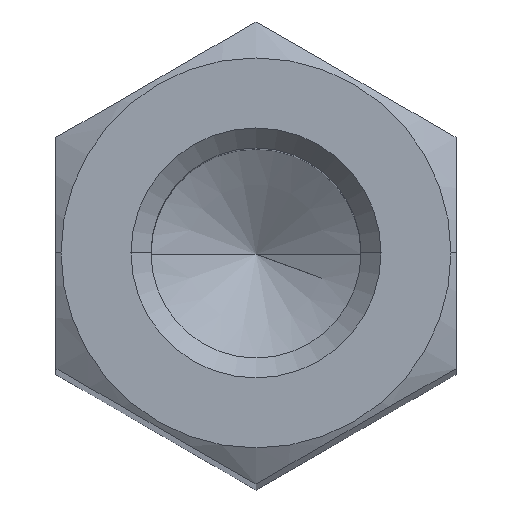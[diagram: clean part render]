
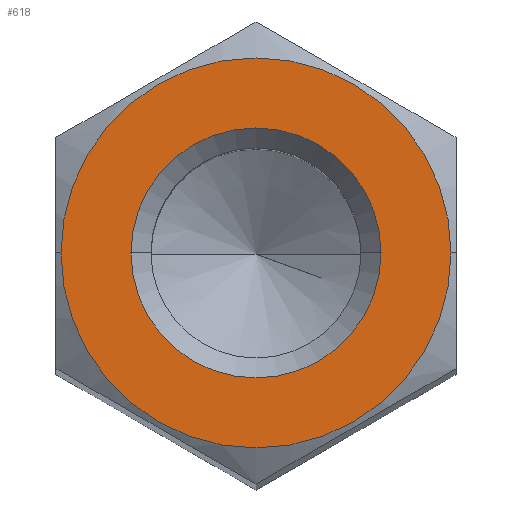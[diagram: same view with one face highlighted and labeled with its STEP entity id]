
A CAD part, top view. The second image highlights one B-rep face of the part: STEP entity #618.
In plain terms, the highlighted planar face has unit normal (0, 0, 1).
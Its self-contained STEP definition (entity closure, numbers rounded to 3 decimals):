
#12 = FACE_BOUND ( 'NONE', #544, .T. ) ;
#52 = DIRECTION ( 'NONE',  ( 1., 0., 0. ) ) ;
#105 = CIRCLE ( 'NONE', #220, 2.5 ) ;
#151 = CARTESIAN_POINT ( 'NONE',  ( 0., 0., 0. ) ) ;
#152 = CIRCLE ( 'NONE', #771, 2.5 ) ;
#157 = FACE_OUTER_BOUND ( 'NONE', #474, .T. ) ;
#162 = DIRECTION ( 'NONE',  ( 1., 0., 0. ) ) ;
#179 = CIRCLE ( 'NONE', #201, 3.9 ) ;
#201 = AXIS2_PLACEMENT_3D ( 'NONE', #787, #475, #835 ) ;
#208 = CIRCLE ( 'NONE', #239, 3.9 ) ;
#220 = AXIS2_PLACEMENT_3D ( 'NONE', #432, #816, #530 ) ;
#229 = DIRECTION ( 'NONE',  ( 1., 0., 0. ) ) ;
#239 = AXIS2_PLACEMENT_3D ( 'NONE', #784, #543, #52 ) ;
#256 = ORIENTED_EDGE ( 'NONE', *, *, #323, .T. ) ;
#262 = AXIS2_PLACEMENT_3D ( 'NONE', #318, #633, #162 ) ;
#318 = CARTESIAN_POINT ( 'NONE',  ( 0., 0., 0. ) ) ;
#323 = EDGE_CURVE ( 'NONE', #377, #356, #208, .T. ) ;
#356 = VERTEX_POINT ( 'NONE', #647 ) ;
#365 = VERTEX_POINT ( 'NONE', #693 ) ;
#377 = VERTEX_POINT ( 'NONE', #600 ) ;
#400 = VERTEX_POINT ( 'NONE', #734 ) ;
#427 = ORIENTED_EDGE ( 'NONE', *, *, #622, .T. ) ;
#432 = CARTESIAN_POINT ( 'NONE',  ( 0., 0., 0. ) ) ;
#474 = EDGE_LOOP ( 'NONE', ( #256, #561 ) ) ;
#475 = DIRECTION ( 'NONE',  ( 0., 0., 1. ) ) ;
#509 = ORIENTED_EDGE ( 'NONE', *, *, #529, .T. ) ;
#529 = EDGE_CURVE ( 'NONE', #400, #365, #152, .T. ) ;
#530 = DIRECTION ( 'NONE',  ( 1., 0., 0. ) ) ;
#543 = DIRECTION ( 'NONE',  ( 0., 0., 1. ) ) ;
#544 = EDGE_LOOP ( 'NONE', ( #509, #427 ) ) ;
#561 = ORIENTED_EDGE ( 'NONE', *, *, #753, .T. ) ;
#582 = PLANE ( 'NONE',  #262 ) ;
#600 = CARTESIAN_POINT ( 'NONE',  ( -3.9, 0., 0. ) ) ;
#618 = ADVANCED_FACE ( 'NONE', ( #12, #157 ), #582, .T. ) ;
#622 = EDGE_CURVE ( 'NONE', #365, #400, #105, .T. ) ;
#633 = DIRECTION ( 'NONE',  ( 0., 0., 1. ) ) ;
#647 = CARTESIAN_POINT ( 'NONE',  ( 3.9, 0., 0. ) ) ;
#675 = DIRECTION ( 'NONE',  ( 0., 0., -1. ) ) ;
#693 = CARTESIAN_POINT ( 'NONE',  ( -2.5, 0., 0. ) ) ;
#734 = CARTESIAN_POINT ( 'NONE',  ( 2.5, 0., 0. ) ) ;
#753 = EDGE_CURVE ( 'NONE', #356, #377, #179, .T. ) ;
#771 = AXIS2_PLACEMENT_3D ( 'NONE', #151, #675, #229 ) ;
#784 = CARTESIAN_POINT ( 'NONE',  ( 0., 0., 0. ) ) ;
#787 = CARTESIAN_POINT ( 'NONE',  ( 0., 0., 0. ) ) ;
#816 = DIRECTION ( 'NONE',  ( 0., 0., -1. ) ) ;
#835 = DIRECTION ( 'NONE',  ( 1., 0., 0. ) ) ;
